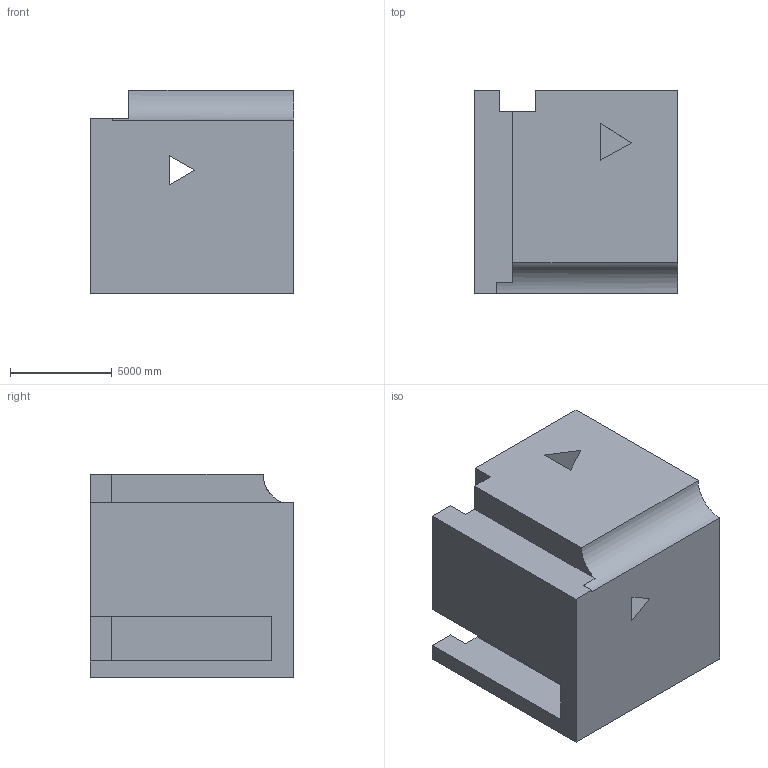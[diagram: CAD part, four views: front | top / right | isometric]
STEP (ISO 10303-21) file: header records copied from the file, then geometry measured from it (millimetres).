
FILE_DESCRIPTION (( 'STEP AP203' ), '1' );
FILE_NAME ('752.STEP', '2022-07-29T12:57:36', ( 'user' ), ( '' ), 'SwSTEP 2.0', 'SolidWorks 2021', '' );
FILE_SCHEMA (( 'CONFIG_CONTROL_DESIGN' ));
Length unit declared in the file: centimetre
Products named in the file (1): 752
Bounding box: 10000 x 10000 x 10000 mm (x, y, z)
Volume: 868460453105.5 mm3; surface area: 742374985.5 mm2
Topology: 1 solids, 1 shells, 39 faces, 105 edges, 70 vertices
Faces by surface type: plane 38, cylinder 1
Entity records: 1283 total; most frequent: CARTESIAN_POINT 215, ORIENTED_EDGE 210, DIRECTION 188, EDGE_CURVE 105, LINE 102, VECTOR 102, VERTEX_POINT 70, EDGE_LOOP 43
